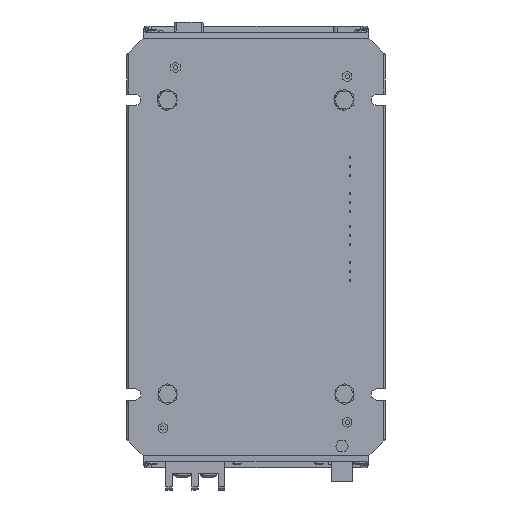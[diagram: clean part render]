
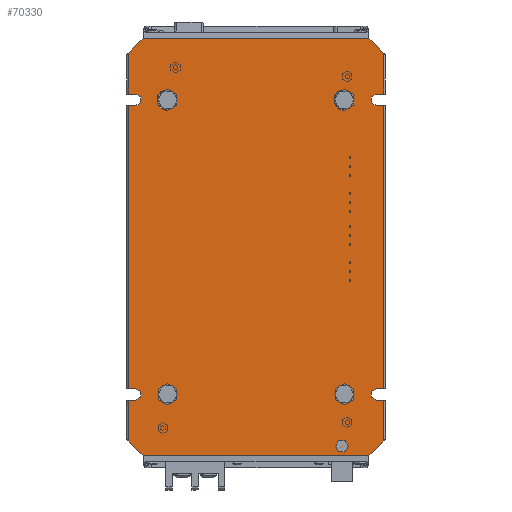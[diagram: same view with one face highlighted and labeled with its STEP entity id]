
A CAD part, front view. The second image highlights one B-rep face of the part: STEP entity #70330.
In plain terms, the highlighted planar face has unit normal (0, -1, 0).
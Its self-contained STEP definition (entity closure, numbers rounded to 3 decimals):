
#32660=CARTESIAN_POINT('',(2143.376,30.104,267.237));
#32670=VERTEX_POINT('',#32660);
#32700=CARTESIAN_POINT('',(0.,30.104,267.237));
#32710=DIRECTION('',(-1.,0.,0.));
#32720=VECTOR('',#32710,1.);
#32730=LINE('',#32700,#32720);
#32740=CARTESIAN_POINT('',(2147.876,30.104,267.237));
#32750=VERTEX_POINT('',#32740);
#32760=EDGE_CURVE('',#32750,#32670,#32730,.T.);
#37780=CARTESIAN_POINT('',(2123.876,30.104,257.237));
#37790=VERTEX_POINT('',#37780);
#37820=CARTESIAN_POINT('',(2123.876,30.104,263.737));
#37830=DIRECTION('',(0.,-1.,0.));
#37840=DIRECTION('',(0.,0.,-1.));
#37850=AXIS2_PLACEMENT_3D('',#37820,#37830,#37840);
#37860=CIRCLE('',#37850,6.5);
#37870=CARTESIAN_POINT('',(2123.876,30.104,270.237));
#37880=VERTEX_POINT('',#37870);
#37890=EDGE_CURVE('',#37880,#37790,#37860,.T.);
#42330=CARTESIAN_POINT('',(2000.876,30.104,46.237));
#42340=VERTEX_POINT('',#42330);
#42370=CARTESIAN_POINT('',(0.,30.104,46.237));
#42380=DIRECTION('',(1.,0.,0.));
#42390=VECTOR('',#42380,1.);
#42400=LINE('',#42370,#42390);
#42410=CARTESIAN_POINT('',(2138.876,30.104,46.237));
#42420=VERTEX_POINT('',#42410);
#42430=EDGE_CURVE('',#42340,#42420,#42400,.T.);
#45030=CARTESIAN_POINT('',(2000.876,30.104,301.237));
#45040=VERTEX_POINT('',#45030);
#45090=CARTESIAN_POINT('',(1699.639,30.104,0.));
#45100=DIRECTION('',(0.707,0.,0.707));
#45110=VECTOR('',#45100,1.);
#45120=LINE('',#45090,#45110);
#45130=CARTESIAN_POINT('',(1991.876,30.104,292.237));
#45140=VERTEX_POINT('',#45130);
#45150=EDGE_CURVE('',#45140,#45040,#45120,.T.);
#47430=CARTESIAN_POINT('',(2147.876,30.104,260.237));
#47440=VERTEX_POINT('',#47430);
#47470=CARTESIAN_POINT('',(0.,30.104,260.237));
#47480=DIRECTION('',(1.,0.,0.));
#47490=VECTOR('',#47480,1.);
#47500=LINE('',#47470,#47490);
#47510=CARTESIAN_POINT('',(2143.376,30.104,260.237));
#47520=VERTEX_POINT('',#47510);
#47530=EDGE_CURVE('',#47520,#47440,#47500,.T.);
#48480=CARTESIAN_POINT('',(1991.876,30.104,267.237));
#48490=VERTEX_POINT('',#48480);
#48520=CARTESIAN_POINT('',(0.,30.104,267.237));
#48530=DIRECTION('',(-1.,0.,0.));
#48540=VECTOR('',#48530,1.);
#48550=LINE('',#48520,#48540);
#48560=CARTESIAN_POINT('',(1996.376,30.104,267.237));
#48570=VERTEX_POINT('',#48560);
#48580=EDGE_CURVE('',#48570,#48490,#48550,.T.);
#52960=CARTESIAN_POINT('',(1991.876,30.104,55.237));
#52970=VERTEX_POINT('',#52960);
#53000=CARTESIAN_POINT('',(2123.776,30.104,-76.663));
#53010=DIRECTION('',(0.707,0.,-0.707));
#53020=VECTOR('',#53010,1.);
#53030=LINE('',#53000,#53020);
#53040=EDGE_CURVE('',#52970,#42340,#53030,.T.);
#53360=CARTESIAN_POINT('',(2123.876,30.104,77.237));
#53370=VERTEX_POINT('',#53360);
#53400=CARTESIAN_POINT('',(2123.876,30.104,83.737));
#53410=DIRECTION('',(0.,-1.,0.));
#53420=DIRECTION('',(0.,0.,-1.));
#53430=AXIS2_PLACEMENT_3D('',#53400,#53410,#53420);
#53440=CIRCLE('',#53430,6.5);
#53450=CARTESIAN_POINT('',(2123.876,30.104,90.237));
#53460=VERTEX_POINT('',#53450);
#53470=EDGE_CURVE('',#53460,#53370,#53440,.T.);
#54120=CARTESIAN_POINT('',(2147.876,30.104,292.237));
#54130=VERTEX_POINT('',#54120);
#54160=CARTESIAN_POINT('',(2440.113,30.104,0.));
#54170=DIRECTION('',(0.707,0.,-0.707));
#54180=VECTOR('',#54170,1.);
#54190=LINE('',#54160,#54180);
#54200=CARTESIAN_POINT('',(2138.876,30.104,301.237));
#54210=VERTEX_POINT('',#54200);
#54220=EDGE_CURVE('',#54210,#54130,#54190,.T.);
#54460=CARTESIAN_POINT('',(2092.639,30.104,0.));
#54470=DIRECTION('',(0.707,0.,0.707));
#54480=VECTOR('',#54470,1.);
#54490=LINE('',#54460,#54480);
#54500=CARTESIAN_POINT('',(2147.876,30.104,55.237));
#54510=VERTEX_POINT('',#54500);
#54520=EDGE_CURVE('',#42420,#54510,#54490,.T.);
#56390=CARTESIAN_POINT('',(1996.376,30.104,263.737));
#56400=DIRECTION('',(0.,1.,0.));
#56410=DIRECTION('',(0.,0.,-1.));
#56420=AXIS2_PLACEMENT_3D('',#56390,#56400,#56410);
#56430=CIRCLE('',#56420,3.5);
#56440=CARTESIAN_POINT('',(1996.376,30.104,260.237));
#56450=VERTEX_POINT('',#56440);
#56460=EDGE_CURVE('',#48570,#56450,#56430,.T.);
#59360=CARTESIAN_POINT('',(0.,30.104,301.237));
#59370=DIRECTION('',(-1.,0.,0.));
#59380=VECTOR('',#59370,1.);
#59390=LINE('',#59360,#59380);
#59400=EDGE_CURVE('',#54210,#45040,#59390,.T.);
#61880=CARTESIAN_POINT('',(2015.876,30.104,257.237));
#61890=VERTEX_POINT('',#61880);
#61920=CARTESIAN_POINT('',(2015.876,30.104,263.737));
#61930=DIRECTION('',(0.,-1.,0.));
#61940=DIRECTION('',(0.,0.,-1.));
#61950=AXIS2_PLACEMENT_3D('',#61920,#61930,#61940);
#61960=CIRCLE('',#61950,6.5);
#61970=CARTESIAN_POINT('',(2015.876,30.104,270.237));
#61980=VERTEX_POINT('',#61970);
#61990=EDGE_CURVE('',#61980,#61890,#61960,.T.);
#63040=CARTESIAN_POINT('',(1991.876,30.104,0.));
#63050=DIRECTION('',(0.,0.,-1.));
#63060=VECTOR('',#63050,1.);
#63070=LINE('',#63040,#63060);
#63080=EDGE_CURVE('',#45140,#48490,#63070,.T.);
#64310=CARTESIAN_POINT('',(1996.376,30.104,87.237));
#64320=VERTEX_POINT('',#64310);
#64350=CARTESIAN_POINT('',(1996.376,30.104,83.737));
#64360=DIRECTION('',(0.,1.,0.));
#64370=DIRECTION('',(0.,0.,-1.));
#64380=AXIS2_PLACEMENT_3D('',#64350,#64360,#64370);
#64390=CIRCLE('',#64380,3.5);
#64400=CARTESIAN_POINT('',(1996.376,30.104,80.237));
#64410=VERTEX_POINT('',#64400);
#64420=EDGE_CURVE('',#64320,#64410,#64390,.T.);
#64540=CARTESIAN_POINT('',(1991.876,30.104,260.237));
#64550=VERTEX_POINT('',#64540);
#64560=CARTESIAN_POINT('',(1991.876,30.104,87.237));
#64570=VERTEX_POINT('',#64560);
#64580=EDGE_CURVE('',#64550,#64570,#63070,.T.);
#64810=CARTESIAN_POINT('',(2147.876,30.104,0.));
#64820=DIRECTION('',(0.,0.,1.));
#64830=VECTOR('',#64820,1.);
#64840=LINE('',#64810,#64830);
#64850=EDGE_CURVE('',#32750,#54130,#64840,.T.);
#67230=CARTESIAN_POINT('',(1991.876,30.104,80.237));
#67240=VERTEX_POINT('',#67230);
#67380=CARTESIAN_POINT('',(0.,30.104,80.237));
#67390=DIRECTION('',(1.,0.,0.));
#67400=VECTOR('',#67390,1.);
#67410=LINE('',#67380,#67400);
#67420=EDGE_CURVE('',#67240,#64410,#67410,.T.);
#69210=CARTESIAN_POINT('',(2120.876,30.104,384.774));
#69220=DIRECTION('',(0.,1.,-0.));
#69230=DIRECTION('',(-1.,0.,0.));
#69240=AXIS2_PLACEMENT_3D('',#69210,#69220,#69230);
#69250=PLANE('',#69240);
#69260=CARTESIAN_POINT('',(2015.876,30.104,83.737));
#69270=DIRECTION('',(0.,-1.,0.));
#69280=DIRECTION('',(0.,0.,-1.));
#69290=AXIS2_PLACEMENT_3D('',#69260,#69270,#69280);
#69300=CIRCLE('',#69290,6.5);
#69310=CARTESIAN_POINT('',(2021.385,30.104,87.187))
;
#69320=VERTEX_POINT('',#69310);
#69330=CARTESIAN_POINT('',(2015.876,30.104,90.237));
#69340=VERTEX_POINT('',#69330);
#69350=EDGE_CURVE('',#69320,#69340,#69300,.T.);
#69360=ORIENTED_EDGE('',*,*,#69350,.F.);
#69370=CARTESIAN_POINT('',(2015.876,30.104,77.237));
#69380=VERTEX_POINT('',#69370);
#69390=EDGE_CURVE('',#69340,#69380,#69300,.T.);
#69400=ORIENTED_EDGE('',*,*,#69390,.F.);
#69410=EDGE_CURVE('',#69380,#69320,#69300,.T.);
#69420=ORIENTED_EDGE('',*,*,#69410,.F.);
#69430=EDGE_LOOP('',(#69420,#69400,#69360));
#69440=FACE_BOUND('',#69430,.T.);
#69450=EDGE_CURVE('',#61890,#61980,#61960,.T.);
#69460=ORIENTED_EDGE('',*,*,#69450,.F.);
#69470=ORIENTED_EDGE('',*,*,#61990,.F.);
#69480=EDGE_LOOP('',(#69470,#69460));
#69490=FACE_BOUND('',#69480,.T.);
#69500=CARTESIAN_POINT('',(2129.385,30.104,87.187))
;
#69510=VERTEX_POINT('',#69500);
#69520=EDGE_CURVE('',#69510,#53460,#53440,.T.);
#69530=ORIENTED_EDGE('',*,*,#69520,.F.);
#69540=ORIENTED_EDGE('',*,*,#53470,.F.);
#69550=EDGE_CURVE('',#53370,#69510,#53440,.T.);
#69560=ORIENTED_EDGE('',*,*,#69550,.F.);
#69570=EDGE_LOOP('',(#69560,#69540,#69530));
#69580=FACE_BOUND('',#69570,.T.);
#69590=EDGE_CURVE('',#37790,#37880,#37860,.T.);
#69600=ORIENTED_EDGE('',*,*,#69590,.F.);
#69610=ORIENTED_EDGE('',*,*,#37890,.F.);
#69620=EDGE_LOOP('',(#69610,#69600));
#69630=FACE_BOUND('',#69620,.T.);
#69640=ORIENTED_EDGE('',*,*,#45150,.F.);
#69650=ORIENTED_EDGE('',*,*,#59400,.T.);
#69660=ORIENTED_EDGE('',*,*,#54220,.F.);
#69670=ORIENTED_EDGE('',*,*,#64850,.T.);
#69680=ORIENTED_EDGE('',*,*,#32760,.F.);
#69690=CARTESIAN_POINT('',(2143.376,30.104,263.737));
#69700=DIRECTION('',(0.,1.,0.));
#69710=DIRECTION('',(0.,0.,-1.));
#69720=AXIS2_PLACEMENT_3D('',#69690,#69700,#69710);
#69730=CIRCLE('',#69720,3.5);
#69740=EDGE_CURVE('',#47520,#32670,#69730,.T.);
#69750=ORIENTED_EDGE('',*,*,#69740,.T.);
#69760=ORIENTED_EDGE('',*,*,#47530,.F.);
#69770=CARTESIAN_POINT('',(2147.876,30.104,87.237));
#69780=VERTEX_POINT('',#69770);
#69790=EDGE_CURVE('',#69780,#47440,#64840,.T.);
#69800=ORIENTED_EDGE('',*,*,#69790,.T.);
#69810=CARTESIAN_POINT('',(0.,30.104,87.237));
#69820=DIRECTION('',(-1.,0.,0.));
#69830=VECTOR('',#69820,1.);
#69840=LINE('',#69810,#69830);
#69850=CARTESIAN_POINT('',(2143.376,30.104,87.237));
#69860=VERTEX_POINT('',#69850);
#69870=EDGE_CURVE('',#69780,#69860,#69840,.T.);
#69880=ORIENTED_EDGE('',*,*,#69870,.F.);
#69890=CARTESIAN_POINT('',(2143.376,30.104,83.737));
#69900=DIRECTION('',(0.,1.,0.));
#69910=DIRECTION('',(0.,0.,-1.));
#69920=AXIS2_PLACEMENT_3D('',#69890,#69900,#69910);
#69930=CIRCLE('',#69920,3.5);
#69940=CARTESIAN_POINT('',(2143.376,30.104,80.237));
#69950=VERTEX_POINT('',#69940);
#69960=EDGE_CURVE('',#69950,#69860,#69930,.T.);
#69970=ORIENTED_EDGE('',*,*,#69960,.T.);
#69980=CARTESIAN_POINT('',(0.,30.104,80.237));
#69990=DIRECTION('',(1.,0.,0.));
#70000=VECTOR('',#69990,1.);
#70010=LINE('',#69980,#70000);
#70020=CARTESIAN_POINT('',(2147.876,30.104,80.237));
#70030=VERTEX_POINT('',#70020);
#70040=EDGE_CURVE('',#69950,#70030,#70010,.T.);
#70050=ORIENTED_EDGE('',*,*,#70040,.F.);
#70060=EDGE_CURVE('',#54510,#70030,#64840,.T.);
#70070=ORIENTED_EDGE('',*,*,#70060,.T.);
#70080=ORIENTED_EDGE('',*,*,#54520,.T.);
#70090=ORIENTED_EDGE('',*,*,#42430,.T.);
#70100=ORIENTED_EDGE('',*,*,#53040,.T.);
#70110=EDGE_CURVE('',#67240,#52970,#63070,.T.);
#70120=ORIENTED_EDGE('',*,*,#70110,.T.);
#70130=ORIENTED_EDGE('',*,*,#67420,.F.);
#70140=ORIENTED_EDGE('',*,*,#64420,.T.);
#70150=CARTESIAN_POINT('',(0.,30.104,87.237));
#70160=DIRECTION('',(-1.,0.,0.));
#70170=VECTOR('',#70160,1.);
#70180=LINE('',#70150,#70170);
#70190=EDGE_CURVE('',#64320,#64570,#70180,.T.);
#70200=ORIENTED_EDGE('',*,*,#70190,.F.);
#70210=ORIENTED_EDGE('',*,*,#64580,.T.);
#70220=CARTESIAN_POINT('',(0.,30.104,260.237));
#70230=DIRECTION('',(1.,0.,0.));
#70240=VECTOR('',#70230,1.);
#70250=LINE('',#70220,#70240);
#70260=EDGE_CURVE('',#64550,#56450,#70250,.T.);
#70270=ORIENTED_EDGE('',*,*,#70260,.F.);
#70280=ORIENTED_EDGE('',*,*,#56460,.T.);
#70290=ORIENTED_EDGE('',*,*,#48580,.F.);
#70300=ORIENTED_EDGE('',*,*,#63080,.T.);
#70310=EDGE_LOOP('',(#70300,#70290,#70280,#70270,#70210,#70200,#70140,
#70130,#70120,#70100,#70090,#70080,#70070,#70050,#69970,#69880,#69800,
#69760,#69750,#69680,#69670,#69660,#69650,#69640));
#70320=FACE_OUTER_BOUND('',#70310,.T.);
#70330=ADVANCED_FACE('',(#69440,#69490,#69580,#69630,#70320),#69250,.F.)
;
